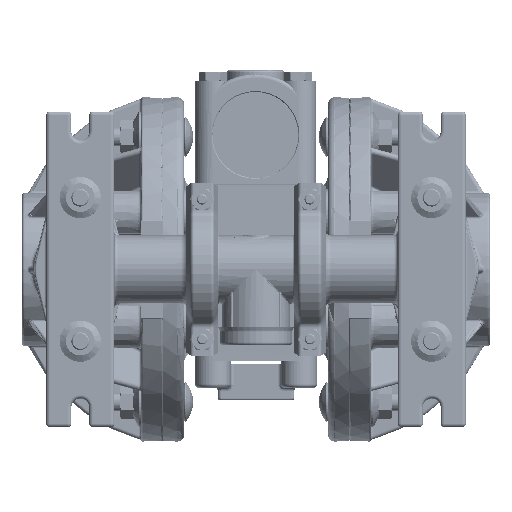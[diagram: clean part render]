
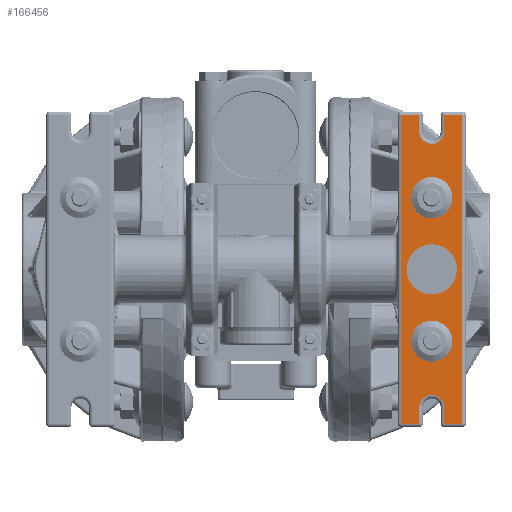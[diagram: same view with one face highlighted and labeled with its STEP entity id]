
A CAD part, front view. The second image highlights one B-rep face of the part: STEP entity #166456.
In plain terms, the highlighted planar face has unit normal (0, -1, 0).
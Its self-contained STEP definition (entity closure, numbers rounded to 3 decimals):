
#47835=DIRECTION('',(0.,0.,1.));
#47836=VECTOR('',#47835,136.55);
#47837=CARTESIAN_POINT('',(91.289,-152.728,
-68.278));
#47838=LINE('',#47837,#47836);
#47843=CARTESIAN_POINT('',(77.776,-152.728,
-61.115));
#47844=DIRECTION('',(0.,-1.,0.));
#47845=DIRECTION('',(1.,0.,0.));
#47846=AXIS2_PLACEMENT_3D('',#47843,#47844,#47845);
#47848=CARTESIAN_POINT('',(77.776,-152.728,
-61.115));
#47849=DIRECTION('',(0.,-1.,0.));
#47850=DIRECTION('',(0.998,0.,0.069));
#47851=AXIS2_PLACEMENT_3D('',#47848,#47849,#47850);
#47853=CARTESIAN_POINT('',(77.776,-152.73,
61.11));
#47854=DIRECTION('',(0.,-1.,0.));
#47855=DIRECTION('',(-1.,0.,0.));
#47856=AXIS2_PLACEMENT_3D('',#47853,#47854,#47855);
#47858=CARTESIAN_POINT('',(77.776,-152.73,
61.11));
#47859=DIRECTION('',(0.,-1.,0.));
#47860=DIRECTION('',(-0.998,0.,-0.069));
#47861=AXIS2_PLACEMENT_3D('',#47858,#47859,#47860);
#47863=CARTESIAN_POINT('',(77.776,-152.729,
-31.752));
#47864=DIRECTION('',(0.,-1.,0.));
#47865=DIRECTION('',(0.,0.,1.));
#47866=AXIS2_PLACEMENT_3D('',#47863,#47864,#47865);
#47868=CARTESIAN_POINT('',(77.776,-152.729,
-31.752));
#47869=DIRECTION('',(0.,-1.,0.));
#47870=DIRECTION('',(0.,0.,-1.));
#47871=AXIS2_PLACEMENT_3D('',#47868,#47869,#47870);
#47873=CARTESIAN_POINT('',(77.776,-152.729,
31.748));
#47874=DIRECTION('',(0.,-1.,0.));
#47875=DIRECTION('',(0.,0.,1.));
#47876=AXIS2_PLACEMENT_3D('',#47873,#47874,#47875);
#47878=CARTESIAN_POINT('',(77.776,-152.729,
31.748));
#47879=DIRECTION('',(0.,-1.,0.));
#47880=DIRECTION('',(0.,0.,-1.));
#47881=AXIS2_PLACEMENT_3D('',#47878,#47879,#47880);
#47883=CARTESIAN_POINT('',(77.776,-152.729,
-0.002));
#47884=DIRECTION('',(0.,-1.,0.));
#47885=DIRECTION('',(0.,0.,-1.));
#47886=AXIS2_PLACEMENT_3D('',#47883,#47884,#47885);
#47888=CARTESIAN_POINT('',(77.776,-152.729,
-0.002));
#47889=DIRECTION('',(0.,-1.,0.));
#47890=DIRECTION('',(0.,0.,1.));
#47891=AXIS2_PLACEMENT_3D('',#47888,#47889,#47890);
#47893=DIRECTION('',(-1.,0.,0.));
#47894=VECTOR('',#47893,7.976);
#47895=CARTESIAN_POINT('',(91.289,-152.73,
68.273));
#47896=LINE('',#47895,#47894);
#47924=DIRECTION('',(0.,0.,-1.));
#47925=VECTOR('',#47924,7.163);
#47926=CARTESIAN_POINT('',(83.313,-152.73,
68.273));
#47927=LINE('',#47926,#47925);
#47957=DIRECTION('',(0.,0.,1.));
#47958=VECTOR('',#47957,7.163);
#47959=CARTESIAN_POINT('',(72.239,-152.73,
61.11));
#47960=LINE('',#47959,#47958);
#47988=DIRECTION('',(-1.,0.,0.));
#47989=VECTOR('',#47988,7.95);
#47990=CARTESIAN_POINT('',(72.239,-152.73,
68.273));
#47991=LINE('',#47990,#47989);
#48042=DIRECTION('',(0.,0.,-1.));
#48043=VECTOR('',#48042,136.55);
#48044=CARTESIAN_POINT('',(64.289,-152.73,
68.273));
#48045=LINE('',#48044,#48043);
#48073=DIRECTION('',(1.,0.,0.));
#48074=VECTOR('',#48073,7.95);
#48075=CARTESIAN_POINT('',(64.288,-152.728,
-68.278));
#48076=LINE('',#48075,#48074);
#48104=DIRECTION('',(0.,0.,1.));
#48105=VECTOR('',#48104,7.163);
#48106=CARTESIAN_POINT('',(72.239,-152.728,
-68.278));
#48107=LINE('',#48106,#48105);
#48137=DIRECTION('',(0.,0.,-1.));
#48138=VECTOR('',#48137,7.163);
#48139=CARTESIAN_POINT('',(83.313,-152.728,
-61.115));
#48140=LINE('',#48139,#48138);
#48168=DIRECTION('',(1.,0.,0.));
#48169=VECTOR('',#48168,7.976);
#48170=CARTESIAN_POINT('',(83.313,-152.728,
-68.278));
#48171=LINE('',#48170,#48169);
#91867=CARTESIAN_POINT('',(64.289,-152.73,
68.273));
#91868=CARTESIAN_POINT('',(64.288,-152.728,
-68.278));
#91869=VERTEX_POINT('',#91867);
#91870=VERTEX_POINT('',#91868);
#91871=CARTESIAN_POINT('',(91.289,-152.73,
68.273));
#91872=CARTESIAN_POINT('',(83.313,-152.73,
68.273));
#91873=VERTEX_POINT('',#91871);
#91874=VERTEX_POINT('',#91872);
#91875=CARTESIAN_POINT('',(91.289,-152.728,
-68.278));
#91876=VERTEX_POINT('',#91875);
#91877=CARTESIAN_POINT('',(83.313,-152.728,
-68.278));
#91878=VERTEX_POINT('',#91877);
#91879=CARTESIAN_POINT('',(83.313,-152.728,
-61.115));
#91880=VERTEX_POINT('',#91879);
#91881=CARTESIAN_POINT('',(83.3,-152.728,
-60.734));
#91882=CARTESIAN_POINT('',(72.239,-152.728,
-61.115));
#91883=VERTEX_POINT('',#91881);
#91884=VERTEX_POINT('',#91882);
#91885=CARTESIAN_POINT('',(72.239,-152.728,
-68.278));
#91886=VERTEX_POINT('',#91885);
#91887=CARTESIAN_POINT('',(72.239,-152.73,
68.273));
#91888=VERTEX_POINT('',#91887);
#91889=CARTESIAN_POINT('',(72.239,-152.73,
61.11));
#91890=VERTEX_POINT('',#91889);
#91891=CARTESIAN_POINT('',(72.252,-152.73,
60.73));
#91892=CARTESIAN_POINT('',(83.313,-152.73,
61.11));
#91893=VERTEX_POINT('',#91891);
#91894=VERTEX_POINT('',#91892);
#91895=CARTESIAN_POINT('',(77.776,-152.729,
-22.608));
#91896=CARTESIAN_POINT('',(77.776,-152.728,
-40.896));
#91897=VERTEX_POINT('',#91895);
#91898=VERTEX_POINT('',#91896);
#91899=CARTESIAN_POINT('',(77.776,-152.729,
40.892));
#91900=CARTESIAN_POINT('',(77.776,-152.729,
22.604));
#91901=VERTEX_POINT('',#91899);
#91902=VERTEX_POINT('',#91900);
#91903=CARTESIAN_POINT('',(77.776,-152.729,
-11.115));
#91904=CARTESIAN_POINT('',(77.776,-152.729,
11.11));
#91905=VERTEX_POINT('',#91903);
#91906=VERTEX_POINT('',#91904);
#166405=CARTESIAN_POINT('',(69.064,-152.729,
-0.002));
#166406=DIRECTION('',(0.,-1.,0.));
#166407=DIRECTION('',(0.,0.,-1.));
#166408=AXIS2_PLACEMENT_3D('',#166405,#166406,#166407);
#166409=PLANE('',#166408);
#166411=ORIENTED_EDGE('',*,*,#166410,.F.);
#166412=ORIENTED_EDGE('',*,*,#166395,.F.);
#166414=ORIENTED_EDGE('',*,*,#166413,.F.);
#166416=ORIENTED_EDGE('',*,*,#166415,.F.);
#166418=ORIENTED_EDGE('',*,*,#166417,.T.);
#166420=ORIENTED_EDGE('',*,*,#166419,.T.);
#166422=ORIENTED_EDGE('',*,*,#166421,.F.);
#166424=ORIENTED_EDGE('',*,*,#166423,.F.);
#166426=ORIENTED_EDGE('',*,*,#166425,.F.);
#166428=ORIENTED_EDGE('',*,*,#166427,.F.);
#166430=ORIENTED_EDGE('',*,*,#166429,.F.);
#166432=ORIENTED_EDGE('',*,*,#166431,.T.);
#166434=ORIENTED_EDGE('',*,*,#166433,.T.);
#166436=ORIENTED_EDGE('',*,*,#166435,.F.);
#166437=EDGE_LOOP('',(#166411,#166412,#166414,#166416,#166418,#166420,#166422,
#166424,#166426,#166428,#166430,#166432,#166434,#166436));
#166438=FACE_OUTER_BOUND('',#166437,.F.);
#166439=ORIENTED_EDGE('',*,*,#166021,.T.);
#166441=ORIENTED_EDGE('',*,*,#166440,.T.);
#166442=EDGE_LOOP('',(#166439,#166441));
#166443=FACE_BOUND('',#166442,.F.);
#166445=ORIENTED_EDGE('',*,*,#166444,.T.);
#166447=ORIENTED_EDGE('',*,*,#166446,.T.);
#166448=EDGE_LOOP('',(#166445,#166447));
#166449=FACE_BOUND('',#166448,.F.);
#166451=ORIENTED_EDGE('',*,*,#166450,.T.);
#166453=ORIENTED_EDGE('',*,*,#166452,.T.);
#166454=EDGE_LOOP('',(#166451,#166453));
#166455=FACE_BOUND('',#166454,.F.);
#166456=ADVANCED_FACE('',(#166438,#166443,#166449,#166455),#166409,.T.);
#47847=CIRCLE('',#47846,5.537);
#47852=CIRCLE('',#47851,5.537);
#47857=CIRCLE('',#47856,5.537);
#47862=CIRCLE('',#47861,5.537);
#47867=CIRCLE('',#47866,9.144);
#47872=CIRCLE('',#47871,9.144);
#47877=CIRCLE('',#47876,9.144);
#47882=CIRCLE('',#47881,9.144);
#47887=CIRCLE('',#47886,11.113);
#47892=CIRCLE('',#47891,11.113);
#166021=EDGE_CURVE('',#91897,#91898,#47867,.T.);
#166395=EDGE_CURVE('',#91876,#91873,#47838,.T.);
#166410=EDGE_CURVE('',#91873,#91874,#47896,.T.);
#166413=EDGE_CURVE('',#91878,#91876,#48171,.T.);
#166415=EDGE_CURVE('',#91880,#91878,#48140,.T.);
#166417=EDGE_CURVE('',#91880,#91883,#47847,.T.);
#166419=EDGE_CURVE('',#91883,#91884,#47852,.T.);
#166421=EDGE_CURVE('',#91886,#91884,#48107,.T.);
#166423=EDGE_CURVE('',#91870,#91886,#48076,.T.);
#166425=EDGE_CURVE('',#91869,#91870,#48045,.T.);
#166427=EDGE_CURVE('',#91888,#91869,#47991,.T.);
#166429=EDGE_CURVE('',#91890,#91888,#47960,.T.);
#166431=EDGE_CURVE('',#91890,#91893,#47857,.T.);
#166433=EDGE_CURVE('',#91893,#91894,#47862,.T.);
#166435=EDGE_CURVE('',#91874,#91894,#47927,.T.);
#166440=EDGE_CURVE('',#91898,#91897,#47872,.T.);
#166444=EDGE_CURVE('',#91901,#91902,#47877,.T.);
#166446=EDGE_CURVE('',#91902,#91901,#47882,.T.);
#166450=EDGE_CURVE('',#91905,#91906,#47887,.T.);
#166452=EDGE_CURVE('',#91906,#91905,#47892,.T.);
